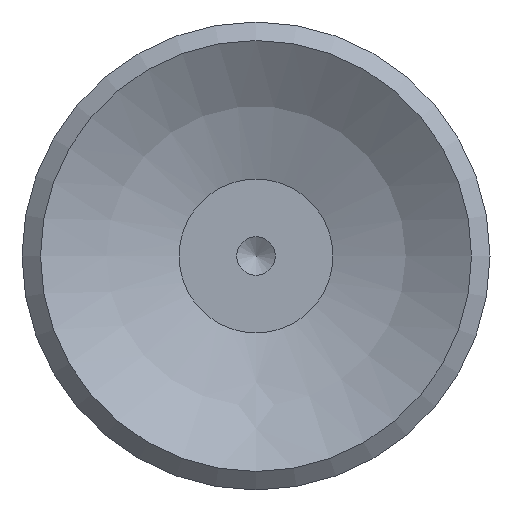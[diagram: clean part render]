
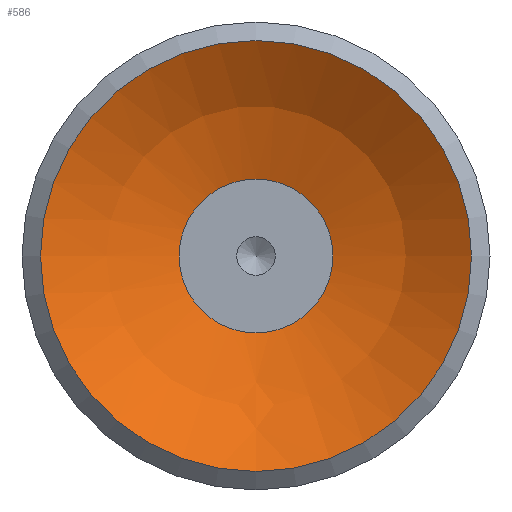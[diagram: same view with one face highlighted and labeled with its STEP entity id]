
A CAD part, front view. The second image highlights one B-rep face of the part: STEP entity #586.
In plain terms, the highlighted spherical face has radius 11.5 mm.
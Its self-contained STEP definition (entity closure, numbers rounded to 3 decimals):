
#586=ADVANCED_FACE('',(#993,#994),#995,.F.);
#993=FACE_OUTER_BOUND('',#1511,.T.);
#994=FACE_OUTER_BOUND('',#1512,.T.);
#995=SPHERICAL_SURFACE('',#1513,11.5);
#1511=EDGE_LOOP('',(#2633));
#1512=EDGE_LOOP('',(#2634));
#1513=AXIS2_PLACEMENT_3D('',#2635,#2636,#2637);
#2633=ORIENTED_EDGE('',*,*,#3487,.T.);
#2634=ORIENTED_EDGE('',*,*,#3488,.F.);
#2635=CARTESIAN_POINT('',(0.001,9.494,-22.735));
#2636=DIRECTION('',(0.0,0.,-1.0));
#2637=DIRECTION('',(1.0,0.0,0.0));
#3487=EDGE_CURVE('',#4130,#4130,#4131,.T.);
#3488=EDGE_CURVE('',#4132,#4132,#4133,.T.);
#4130=VERTEX_POINT('',#5883);
#4131=CIRCLE('',#5884,7.0);
#4132=VERTEX_POINT('',#5885);
#4133=CIRCLE('',#5886,2.5);
#5883=CARTESIAN_POINT('',(0.001,16.494,-13.611));
#5884=AXIS2_PLACEMENT_3D('',#6511,#6512,#6513);
#5885=CARTESIAN_POINT('',(0.001,11.994,-11.51));
#5886=AXIS2_PLACEMENT_3D('',#6514,#6515,#6516);
#6511=CARTESIAN_POINT('',(0.001,9.494,-13.611));
#6512=DIRECTION('',(0.0,0.,-1.0));
#6513=DIRECTION('',(0.0,1.0,0.));
#6514=CARTESIAN_POINT('',(0.001,9.494,-11.51));
#6515=DIRECTION('',(0.0,0.,-1.0));
#6516=DIRECTION('',(0.0,1.0,0.));
